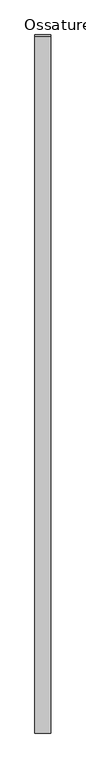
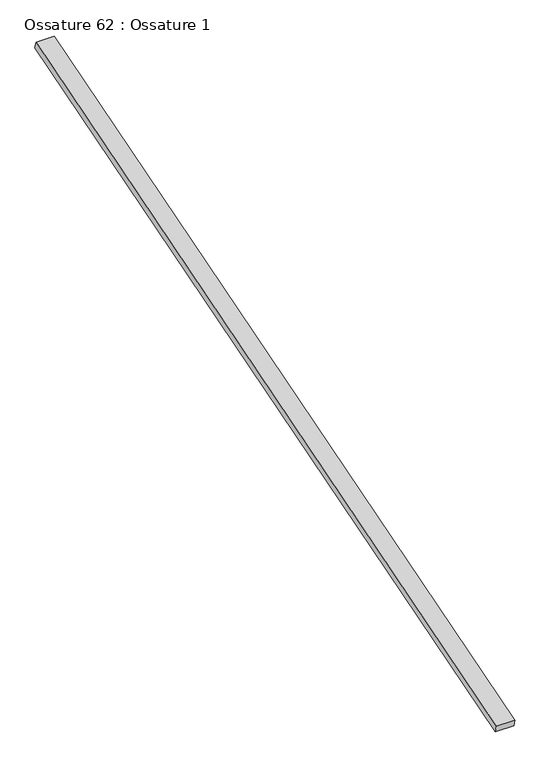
"""IFC4 building model written with IfcOpenShell, lengths in millimetres: beam geometry, Ossature 62 : Ossature 1."""

from ifc_helpers import new_model, si_unit, frame, origin, place, context, project, spatial, polyline, outline, extrude, source, transform, mapped, element, save


def ossature_62_ossature_1_e68228ee(model_context):
    return source(origin(), model_context, "Body", "SweptSolid", [
        extrude(outline(polyline([(0.0, 0.0), (0.0, -4543.0299679), (-100.0, -4543.0299679), (-100.0, 0.0), (0.0, 0.0)])), frame((15059.2466393, -833.3913565, 8153.6336115), z_axis=(0.0, -0.28734788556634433, 0.9578262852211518), x_axis=(-1.0, 0.0, 0.0)), (0.0, 0.0, 1.0), 40.0),
    ])


if __name__ == "__main__":
    model = new_model("IFC4")
    model_context = context("Model", 3, world=origin())
    ifc_project = project(units=[si_unit("LENGTHUNIT", "METRE", prefix="MILLI")], contexts=[model_context])
    site = spatial("IfcSite", under=ifc_project)
    building = spatial("IfcBuilding", under=site)
    placement = place(None, origin())
    ossature_62_ossature_1_shape = ossature_62_ossature_1_e68228ee(model_context)
    element("IfcBeam", 1, ObjectType="Ossature 62 : Ossature 1", at=placement, inside=building, context=model_context, shape_type="MappedRepresentation", body=[
        mapped(ossature_62_ossature_1_shape, transform((0.0, 0.0, 0.0), x_axis=(1.0, 0.0, 0.0), y_axis=(0.0, 1.0, 0.0), z_axis=(0.0, 0.0, 1.0))),
    ])
    save(model, "model.ifc")
